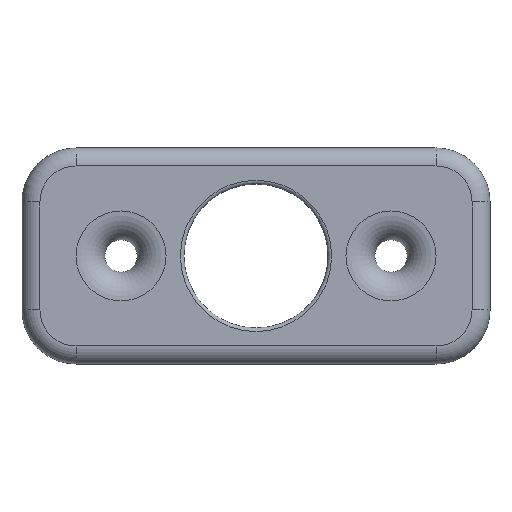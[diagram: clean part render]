
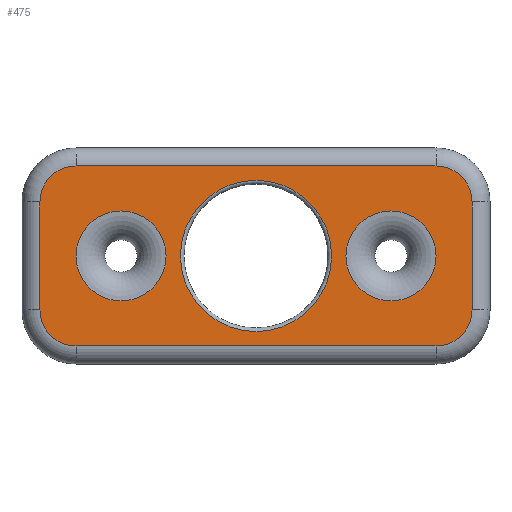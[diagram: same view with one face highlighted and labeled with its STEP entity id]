
A CAD part, top view. The second image highlights one B-rep face of the part: STEP entity #475.
In plain terms, the highlighted planar face has unit normal (0, 0, 1).
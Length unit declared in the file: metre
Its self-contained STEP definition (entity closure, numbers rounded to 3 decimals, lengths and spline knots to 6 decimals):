
#35=LINE('',#764,#67);
#36=LINE('',#769,#68);
#37=LINE('',#773,#69);
#38=LINE('',#777,#70);
#67=VECTOR('',#598,1.);
#68=VECTOR('',#601,1.);
#69=VECTOR('',#604,1.);
#70=VECTOR('',#607,1.);
#99=ORIENTED_EDGE('',*,*,#231,.T.);
#100=ORIENTED_EDGE('',*,*,#232,.T.);
#101=ORIENTED_EDGE('',*,*,#233,.T.);
#102=ORIENTED_EDGE('',*,*,#234,.T.);
#103=ORIENTED_EDGE('',*,*,#235,.T.);
#104=ORIENTED_EDGE('',*,*,#236,.T.);
#105=ORIENTED_EDGE('',*,*,#237,.T.);
#106=ORIENTED_EDGE('',*,*,#238,.T.);
#107=ORIENTED_EDGE('',*,*,#239,.T.);
#108=ORIENTED_EDGE('',*,*,#240,.T.);
#109=ORIENTED_EDGE('',*,*,#241,.T.);
#231=EDGE_CURVE('',#297,#297,#339,.F.);
#232=EDGE_CURVE('',#298,#298,#340,.F.);
#233=EDGE_CURVE('',#299,#299,#341,.F.);
#234=EDGE_CURVE('',#300,#301,#35,.T.);
#235=EDGE_CURVE('',#301,#302,#342,.T.);
#236=EDGE_CURVE('',#302,#303,#36,.T.);
#237=EDGE_CURVE('',#303,#304,#343,.T.);
#238=EDGE_CURVE('',#304,#305,#37,.F.);
#239=EDGE_CURVE('',#305,#306,#344,.T.);
#240=EDGE_CURVE('',#306,#307,#38,.F.);
#241=EDGE_CURVE('',#307,#300,#345,.T.);
#297=VERTEX_POINT('',#759);
#298=VERTEX_POINT('',#761);
#299=VERTEX_POINT('',#763);
#300=VERTEX_POINT('',#765);
#301=VERTEX_POINT('',#766);
#302=VERTEX_POINT('',#768);
#303=VERTEX_POINT('',#770);
#304=VERTEX_POINT('',#772);
#305=VERTEX_POINT('',#774);
#306=VERTEX_POINT('',#776);
#307=VERTEX_POINT('',#778);
#339=CIRCLE('',#522,0.021);
#340=CIRCLE('',#523,0.0125);
#341=CIRCLE('',#524,0.0125);
#342=CIRCLE('',#525,0.01);
#343=CIRCLE('',#526,0.01);
#344=CIRCLE('',#527,0.01);
#345=CIRCLE('',#528,0.01);
#373=EDGE_LOOP('',(#99));
#374=EDGE_LOOP('',(#100));
#375=EDGE_LOOP('',(#101));
#376=EDGE_LOOP('',(#102,#103,#104,#105,#106,#107,#108,#109));
#419=FACE_BOUND('',#373,.T.);
#420=FACE_BOUND('',#374,.T.);
#421=FACE_BOUND('',#375,.T.);
#422=FACE_BOUND('',#376,.T.);
#465=PLANE('',#521);
#475=ADVANCED_FACE('',(#419,#420,#421,#422),#465,.T.);
#521=AXIS2_PLACEMENT_3D('',#757,#590,#591);
#522=AXIS2_PLACEMENT_3D('',#758,#592,#593);
#523=AXIS2_PLACEMENT_3D('',#760,#594,#595);
#524=AXIS2_PLACEMENT_3D('',#762,#596,#597);
#525=AXIS2_PLACEMENT_3D('',#767,#599,#600);
#526=AXIS2_PLACEMENT_3D('',#771,#602,#603);
#527=AXIS2_PLACEMENT_3D('',#775,#605,#606);
#528=AXIS2_PLACEMENT_3D('',#779,#608,#609);
#590=DIRECTION('',(0.,0.,1.));
#591=DIRECTION('',(1.,0.,0.));
#592=DIRECTION('',(0.,0.,1.));
#593=DIRECTION('',(1.,0.,0.));
#594=DIRECTION('',(0.,0.,1.));
#595=DIRECTION('',(1.,0.,0.));
#596=DIRECTION('',(0.,0.,1.));
#597=DIRECTION('',(1.,0.,0.));
#598=DIRECTION('',(0.,-1.,0.));
#599=DIRECTION('',(0.,0.,1.));
#600=DIRECTION('',(1.,0.,0.));
#601=DIRECTION('',(1.,0.,0.));
#602=DIRECTION('',(0.,0.,1.));
#603=DIRECTION('',(1.,0.,0.));
#604=DIRECTION('',(0.,-1.,0.));
#605=DIRECTION('',(0.,0.,1.));
#606=DIRECTION('',(1.,0.,0.));
#607=DIRECTION('',(1.,0.,0.));
#608=DIRECTION('',(0.,0.,1.));
#609=DIRECTION('',(1.,0.,0.));
#757=CARTESIAN_POINT('',(-0.198558,-0.246398,0.01));
#758=CARTESIAN_POINT('',(-0.198558,-0.246398,0.01));
#759=CARTESIAN_POINT('',(-0.177558,-0.246398,0.01));
#760=CARTESIAN_POINT('',(-0.161058,-0.246398,0.01));
#761=CARTESIAN_POINT('',(-0.148558,-0.246398,0.01));
#762=CARTESIAN_POINT('',(-0.236058,-0.246398,0.01));
#763=CARTESIAN_POINT('',(-0.223558,-0.246398,0.01));
#764=CARTESIAN_POINT('',(-0.258558,-0.261398,0.01));
#765=CARTESIAN_POINT('',(-0.258558,-0.231398,0.01));
#766=CARTESIAN_POINT('',(-0.258558,-0.261398,0.01));
#767=CARTESIAN_POINT('',(-0.248558,-0.261398,0.01));
#768=CARTESIAN_POINT('',(-0.248558,-0.271398,0.01));
#769=CARTESIAN_POINT('',(-0.148558,-0.271398,0.01));
#770=CARTESIAN_POINT('',(-0.148558,-0.271398,0.01));
#771=CARTESIAN_POINT('',(-0.148558,-0.261398,0.01));
#772=CARTESIAN_POINT('',(-0.138558,-0.261398,0.01));
#773=CARTESIAN_POINT('',(-0.138558,-0.246398,0.01));
#774=CARTESIAN_POINT('',(-0.138558,-0.231398,0.01));
#775=CARTESIAN_POINT('',(-0.148558,-0.231398,0.01));
#776=CARTESIAN_POINT('',(-0.148558,-0.221398,0.01));
#777=CARTESIAN_POINT('',(-0.198558,-0.221398,0.01));
#778=CARTESIAN_POINT('',(-0.248558,-0.221398,0.01));
#779=CARTESIAN_POINT('',(-0.248558,-0.231398,0.01));
